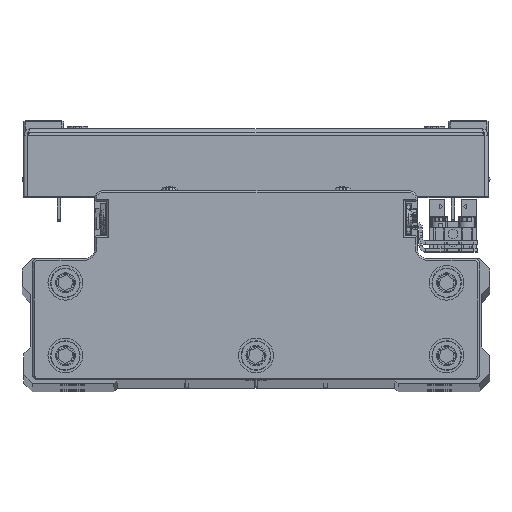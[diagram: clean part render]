
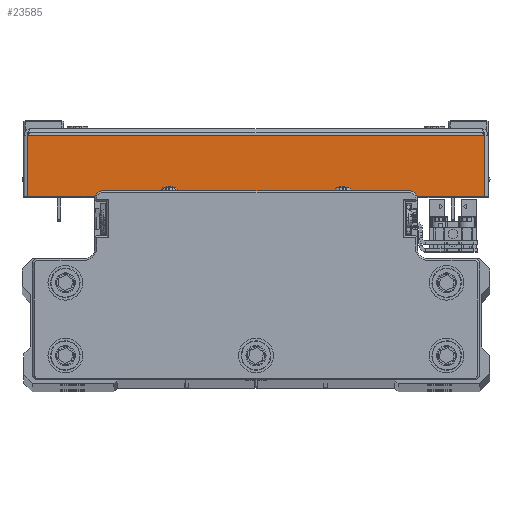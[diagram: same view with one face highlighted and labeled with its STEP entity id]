
A CAD part, top view. The second image highlights one B-rep face of the part: STEP entity #23585.
In plain terms, the highlighted planar face has unit normal (0, 0, 1) as drawn and (1, 0, 0) by its records, which use the part's own axes.
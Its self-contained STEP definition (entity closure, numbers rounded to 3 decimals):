
#400 = CARTESIAN_POINT ( 'NONE',  ( 100., 1., 65.929 ) ) ;
#1356 = VECTOR ( 'NONE', #43036, 1000. ) ;
#1544 = ORIENTED_EDGE ( 'NONE', *, *, #19488, .F. ) ;
#2103 = VERTEX_POINT ( 'NONE', #33118 ) ;
#3761 = VERTEX_POINT ( 'NONE', #38561 ) ;
#4781 = DIRECTION ( 'NONE',  ( -1., 0., 0. ) ) ;
#8231 = FACE_OUTER_BOUND ( 'NONE', #30986, .T. ) ;
#8684 = CARTESIAN_POINT ( 'NONE',  ( 100., 1., 67. ) ) ;
#9442 = VECTOR ( 'NONE', #39932, 1000. ) ;
#11364 = DIRECTION ( 'NONE',  ( 0., 1., 0. ) ) ;
#11884 = LINE ( 'NONE', #25907, #9442 ) ;
#12911 = EDGE_CURVE ( 'NONE', #23936, #3761, #28839, .T. ) ;
#13689 = ORIENTED_EDGE ( 'NONE', *, *, #12911, .T. ) ;
#14998 = LINE ( 'NONE', #29005, #1356 ) ;
#18531 = CARTESIAN_POINT ( 'NONE',  ( 100., 1., -65.929 ) ) ;
#18798 = DIRECTION ( 'NONE',  ( 0., -1., 0. ) ) ;
#19488 = EDGE_CURVE ( 'NONE', #23835, #2103, #11884, .T. ) ;
#20841 = ORIENTED_EDGE ( 'NONE', *, *, #22663, .T. ) ;
#22255 = PLANE ( 'NONE',  #32959 ) ;
#22663 = EDGE_CURVE ( 'NONE', #3761, #2103, #14998, .T. ) ;
#22709 = DIRECTION ( 'NONE',  ( 0., 0., 1. ) ) ;
#23585 = ADVANCED_FACE ( 'NONE', ( #8231 ), #22255, .F. ) ;
#23678 = VECTOR ( 'NONE', #11364, 1000. ) ;
#23835 = VERTEX_POINT ( 'NONE', #400 ) ;
#23936 = VERTEX_POINT ( 'NONE', #18531 ) ;
#25907 = CARTESIAN_POINT ( 'NONE',  ( 100., 0., 65.929 ) ) ;
#28839 = LINE ( 'NONE', #42867, #23678 ) ;
#29005 = CARTESIAN_POINT ( 'NONE',  ( 100., 18.5, 0. ) ) ;
#30986 = EDGE_LOOP ( 'NONE', ( #36655, #13689, #20841, #1544 ) ) ;
#32811 = VECTOR ( 'NONE', #22709, 1000. ) ;
#32959 = AXIS2_PLACEMENT_3D ( 'NONE', #36254, #4781, #18798 ) ;
#33118 = CARTESIAN_POINT ( 'NONE',  ( 100., 18.5, 65.929 ) ) ;
#36254 = CARTESIAN_POINT ( 'NONE',  ( 100., 0., 0. ) ) ;
#36362 = EDGE_CURVE ( 'NONE', #23936, #23835, #40184, .T. ) ;
#36655 = ORIENTED_EDGE ( 'NONE', *, *, #36362, .F. ) ;
#38561 = CARTESIAN_POINT ( 'NONE',  ( 100., 18.5, -65.929 ) ) ;
#39932 = DIRECTION ( 'NONE',  ( 0., 1., 0. ) ) ;
#40184 = LINE ( 'NONE', #8684, #32811 ) ;
#42867 = CARTESIAN_POINT ( 'NONE',  ( 100., 0., -65.929 ) ) ;
#43036 = DIRECTION ( 'NONE',  ( 0., 0., 1. ) ) ;
